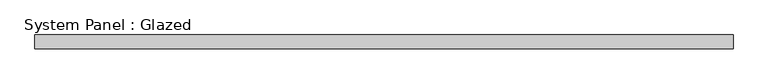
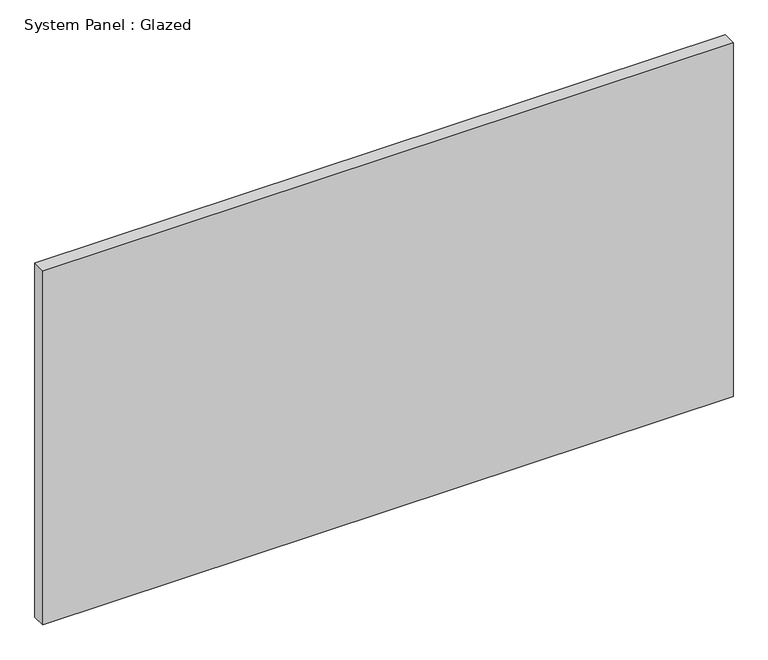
"""IFC4 building model written with IfcOpenShell, lengths in millimetres: plate geometry, System Panel : Glazed."""

import ifcopenshell
import ifcopenshell.guid

model = None  # the IFC model being written
_history = None  # IfcOwnerHistory: only IFC2X3 demands one
_inside = {}  # id of a spatial element -> (the spatial element, [elements in it])
_under = {}  # id of a project, library or spatial element -> (it, [spatial elements below it])
_declared = {}  # id of a project -> (the project, [libraries it declares])
_typed = {}  # id of a type object -> (the type object, [elements of that type])
_made_of = {}  # id of a material, layer set ... -> (it, [elements and type objects made of it])


def new_model(schema):
    """Start an empty IFC model of exactly this schema.

    Asked for "IFC4X3", IfcOpenShell would pick the latest addendum, in which some entities
    have other attributes; the version numbers below select the first issue.
    IFC2X3 requires an IfcOwnerHistory on every rooted entity: one is made here for all.
    """
    global model, _history
    if schema == "IFC4X3":
        model = ifcopenshell.file(schema_version=(4, 3, 0, 0))
    else:
        model = ifcopenshell.file(schema=schema)
    _inside.clear()
    _under.clear()
    _declared.clear()
    _typed.clear()
    _made_of.clear()
    _history = None
    if model.schema == "IFC2X3":
        org = make("IfcOrganization", Name="unknown")
        user = make(
            "IfcPersonAndOrganization",
            ThePerson=make("IfcPerson", FamilyName="unknown"),
            TheOrganization=org,
        )
        app = make(
            "IfcApplication",
            ApplicationDeveloper=org,
            Version="unknown",
            ApplicationFullName="unknown",
            ApplicationIdentifier="unknown",
        )
        _history = make(
            "IfcOwnerHistory",
            OwningUser=user,
            OwningApplication=app,
            ChangeAction="ADDED",
            CreationDate=0,
        )
    return model


def make(cls, **values):
    """One entity of the class cls with the attributes given. An attribute that is None is left unset."""
    return model.create_entity(
        cls, **{name: value for name, value in values.items() if value is not None}
    )


def rooted(cls, **values):
    """An entity with a GlobalId (a new one), such as an element, a storey or a relation."""
    return make(cls, GlobalId=ifcopenshell.guid.new(), OwnerHistory=_history, **values)


def si_unit(unit_type, name, prefix=None):
    """IfcSIUnit, for example si_unit("LENGTHUNIT", "METRE", prefix="MILLI")."""
    return make("IfcSIUnit", UnitType=unit_type, Prefix=prefix, Name=name)


def assignment(units):
    """IfcUnitAssignment: the units of a project."""
    return None if units is None else make("IfcUnitAssignment", Units=units)


def point(xyz):
    """IfcCartesianPoint."""
    return None if xyz is None else make("IfcCartesianPoint", Coordinates=xyz)


def direction(xyz):
    """IfcDirection."""
    return None if xyz is None else make("IfcDirection", DirectionRatios=xyz)


def frame(location, z_axis=None, x_axis=None):
    """IfcAxis2Placement3D, a coordinate frame: its origin and axes. An axis left out is left unset."""
    return make(
        "IfcAxis2Placement3D",
        Location=point(location),
        Axis=direction(z_axis),
        RefDirection=direction(x_axis),
    )


def origin():
    """The frame at (0, 0, 0) with its axes left unset."""
    return frame((0.0, 0.0, 0.0))


def origin_with_axes():
    """The frame at (0, 0, 0) with the z axis (0, 0, 1) and the x axis (1, 0, 0) written out."""
    return frame((0.0, 0.0, 0.0), z_axis=(0.0, 0.0, 1.0), x_axis=(1.0, 0.0, 0.0))


def place(relative_to, where):
    """IfcLocalPlacement: puts the frame where relative to a parent placement (None: the world)."""
    return make(
        "IfcLocalPlacement", PlacementRelTo=relative_to, RelativePlacement=where
    )


def context(
    kind, dimensions, precision=None, world=None, true_north=None, identifier=None
):
    """IfcGeometricRepresentationContext, for example the 3D "Model" context."""
    return make(
        "IfcGeometricRepresentationContext",
        ContextIdentifier=identifier,
        ContextType=kind,
        CoordinateSpaceDimension=dimensions,
        Precision=precision,
        WorldCoordinateSystem=world,
        TrueNorth=true_north,
    )


def project(units=None, contexts=None):
    """IfcProject with its units and contexts."""
    return rooted(
        "IfcProject",
        Name="project",
        RepresentationContexts=contexts,
        UnitsInContext=assignment(units),
    )


def spatial(cls, under=None, at=None, **own):
    """A site, building, storey or space (cls), placed at a placement, below another one or the project."""
    s = rooted(cls, ObjectPlacement=at, **own)
    if under is not None:
        _under.setdefault(under.id(), (under, []))[1].append(s)
    return s


def polyline(points):
    """IfcPolyline through the points."""
    return make("IfcPolyline", Points=[point(p) for p in points])


def outline(outer, holes=None, kind="AREA"):
    """IfcArbitraryClosedProfileDef: a profile drawn as a closed curve; with holes, ...WithVoids."""
    if holes is None:
        return make("IfcArbitraryClosedProfileDef", ProfileType=kind, OuterCurve=outer)
    return make(
        "IfcArbitraryProfileDefWithVoids",
        ProfileType=kind,
        OuterCurve=outer,
        InnerCurves=holes,
    )


def extrude(swept, where, along, depth):
    """IfcExtrudedAreaSolid: the profile swept, set in the frame where, extruded along a direction by depth."""
    return make(
        "IfcExtrudedAreaSolid",
        SweptArea=swept,
        Position=where,
        ExtrudedDirection=direction(along),
        Depth=depth,
    )


def shape(context_of_items, identifier, shape_type, items):
    """IfcShapeRepresentation: the items that make up one representation, for example the "Body"."""
    return make(
        "IfcShapeRepresentation",
        ContextOfItems=context_of_items,
        RepresentationIdentifier=identifier,
        RepresentationType=shape_type,
        Items=items,
    )


def source(mapping_origin, context_of_items, identifier, shape_type, items):
    """IfcRepresentationMap: a shape defined once, which mapped items show again and again."""
    return make(
        "IfcRepresentationMap",
        MappingOrigin=mapping_origin,
        MappedRepresentation=shape(context_of_items, identifier, shape_type, items),
    )


def transform(
    local_origin,
    x_axis=None,
    y_axis=None,
    z_axis=None,
    scale=None,
    scale2=None,
    scale3=None,
    uniform=True,
):
    """IfcCartesianTransformationOperator3D, or its non-uniform kind. x_axis, y_axis, z_axis: its Axis1, 2, 3."""
    if uniform:
        return make(
            "IfcCartesianTransformationOperator3D",
            Axis1=direction(x_axis),
            Axis2=direction(y_axis),
            LocalOrigin=point(local_origin),
            Scale=scale,
            Axis3=direction(z_axis),
        )
    return make(
        "IfcCartesianTransformationOperator3DnonUniform",
        Axis1=direction(x_axis),
        Axis2=direction(y_axis),
        LocalOrigin=point(local_origin),
        Scale=scale,
        Axis3=direction(z_axis),
        Scale2=scale2,
        Scale3=scale3,
    )


def mapped(mapping_source, mapping_target):
    """IfcMappedItem: shows the shape of a source again, moved by a transform."""
    return make(
        "IfcMappedItem", MappingSource=mapping_source, MappingTarget=mapping_target
    )


def made_of(thing, what):
    """Note that an element or type object is made of a material, layer set ...; save() writes the relation."""
    if what is not None:
        _made_of.setdefault(what.id(), (what, []))[1].append(thing)
    return thing


def element(
    cls,
    number,
    at=None,
    inside=None,
    cuts=None,
    type_object=None,
    material=None,
    context=None,
    identifier="Body",
    shape_type=None,
    held_by="IfcProductDefinitionShape",
    body=None,
    shapes=None,
    **own,
):
    """One element of the class cls, such as IfcWall. Its Tag is "e" and its number.

    at: its placement. inside: the storey or other place that contains it. cuts: it is an
    opening in that element (IfcRelVoidsElement). A single representation is given by context,
    identifier, shape_type and body (its items); several are given by shapes. held_by: the class
    of the entity that holds the representations. save() writes the other relations.
    """
    e = rooted(cls, Tag="e%d" % number, ObjectPlacement=at, **own)
    if body is not None:
        shapes = [shape(context, identifier, shape_type, body)]
    if shapes is not None:
        e.Representation = make(held_by, Representations=shapes)
    if inside is not None:
        _inside.setdefault(inside.id(), (inside, []))[1].append(e)
    if cuts is not None:
        rooted(
            "IfcRelVoidsElement", RelatingBuildingElement=cuts, RelatedOpeningElement=e
        )
    if type_object is not None:
        _typed.setdefault(type_object.id(), (type_object, []))[1].append(e)
    return made_of(e, material)


def aggregate(whole, parts):
    """IfcRelAggregates: a whole, such as a stair, and the parts it consists of."""
    return rooted("IfcRelAggregates", RelatingObject=whole, RelatedObjects=parts)


def save(model, path):
    """Write the relations noted so far, then the file.

    IfcRelAggregates (storeys below a building ...), IfcRelContainedInSpatialStructure (elements
    in a storey), IfcRelDefinesByType, IfcRelAssociatesMaterial and IfcRelDeclares: one each for
    every whole, place, type object, material and project.
    """
    for whole, parts in _under.values():
        aggregate(whole, parts)
    for where, things in _inside.values():
        rooted(
            "IfcRelContainedInSpatialStructure",
            RelatedElements=things,
            RelatingStructure=where,
        )
    for kind, things in _typed.values():
        rooted("IfcRelDefinesByType", RelatedObjects=things, RelatingType=kind)
    for what, things in _made_of.values():
        rooted("IfcRelAssociatesMaterial", RelatedObjects=things, RelatingMaterial=what)
    for by, libraries in _declared.values():
        rooted("IfcRelDeclares", RelatingContext=by, RelatedDefinitions=libraries)
    model.write(path)


def system_panel_glazed_db628170(model_context):
    return source(origin(), model_context, "Body", "SweptSolid", [
        extrude(outline(polyline([(622.3125, 24.5), (-622.3125, 24.5), (-622.3125, 49.5), (622.3125, 49.5), (622.3125, 24.5)])), origin_with_axes(), (0.0, 0.0, 1.0), 675.0),
    ])


if __name__ == "__main__":
    model = new_model("IFC4")
    model_context = context("Model", 3, world=origin())
    ifc_project = project(units=[si_unit("LENGTHUNIT", "METRE", prefix="MILLI")], contexts=[model_context])
    site = spatial("IfcSite", under=ifc_project)
    building = spatial("IfcBuilding", under=site)
    placement = place(None, origin())
    system_panel_glazed_shape = system_panel_glazed_db628170(model_context)
    element("IfcPlate", 1, ObjectType="System Panel : Glazed", at=placement, inside=building, context=model_context, shape_type="MappedRepresentation", body=[
        mapped(system_panel_glazed_shape, transform((0.0, 0.0, 0.0), x_axis=(1.0, 0.0, 0.0), y_axis=(0.0, 1.0, 0.0), z_axis=(0.0, 0.0, 1.0))),
    ])
    save(model, "model.ifc")
